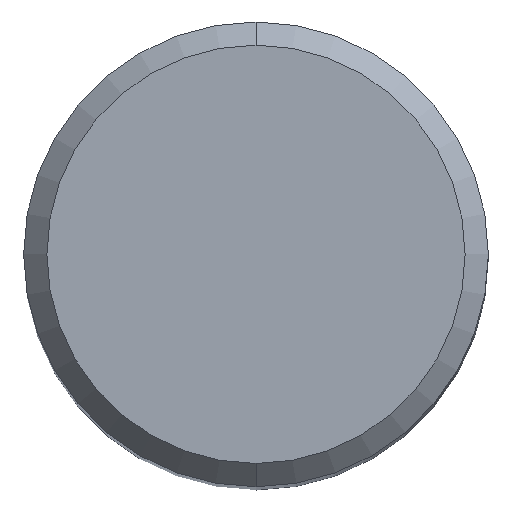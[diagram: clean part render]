
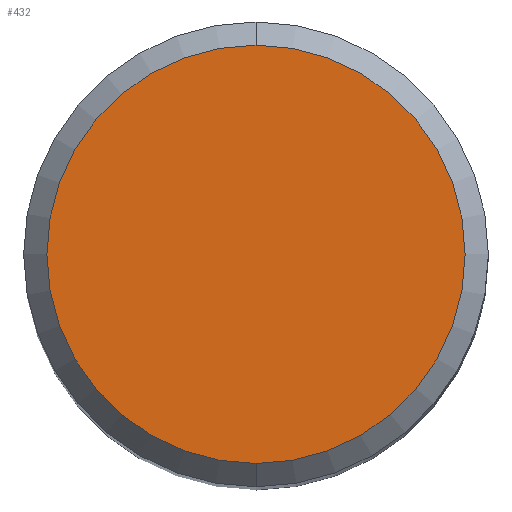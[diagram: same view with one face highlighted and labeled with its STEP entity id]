
A CAD part, top view. The second image highlights one B-rep face of the part: STEP entity #432.
In plain terms, the highlighted planar face has unit normal (0, 0, 1).
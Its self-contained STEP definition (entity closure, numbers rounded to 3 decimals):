
#186=EDGE_CURVE('',#388,#318,#496,.T.);
#278=EDGE_CURVE('',#318,#388,#596,.T.);
#318=VERTEX_POINT('',#638);
#388=VERTEX_POINT('',#718);
#432=ADVANCED_FACE('',(#768),#769,.T.);
#496=CIRCLE('',#832,4.5);
#596=CIRCLE('',#1030,4.5);
#638=CARTESIAN_POINT('',(0.0,4.5,0.0));
#718=CARTESIAN_POINT('',(0.,-4.5,0.0));
#768=FACE_OUTER_BOUND('',#1374,.T.);
#769=PLANE('',#1375);
#832=AXIS2_PLACEMENT_3D('',#1499,#1500,#1501);
#1030=AXIS2_PLACEMENT_3D('',#1597,#1598,#1599);
#1374=EDGE_LOOP('',(#1809,#1810));
#1375=AXIS2_PLACEMENT_3D('',#1811,#1812,#1813);
#1499=CARTESIAN_POINT('',(0.0,0.0,0.0));
#1500=DIRECTION('',(0.0,0.0,-1.0));
#1501=DIRECTION('',(0.0,1.0,0.0));
#1597=CARTESIAN_POINT('',(0.0,0.0,0.0));
#1598=DIRECTION('',(0.0,0.0,-1.0));
#1599=DIRECTION('',(0.0,1.0,0.0));
#1809=ORIENTED_EDGE('',*,*,#278,.F.);
#1810=ORIENTED_EDGE('',*,*,#186,.F.);
#1811=CARTESIAN_POINT('',(0.0,2.25,0.0));
#1812=DIRECTION('',(-0.0,0.0,1.0));
#1813=DIRECTION('',(0.0,-1.0,0.0));
